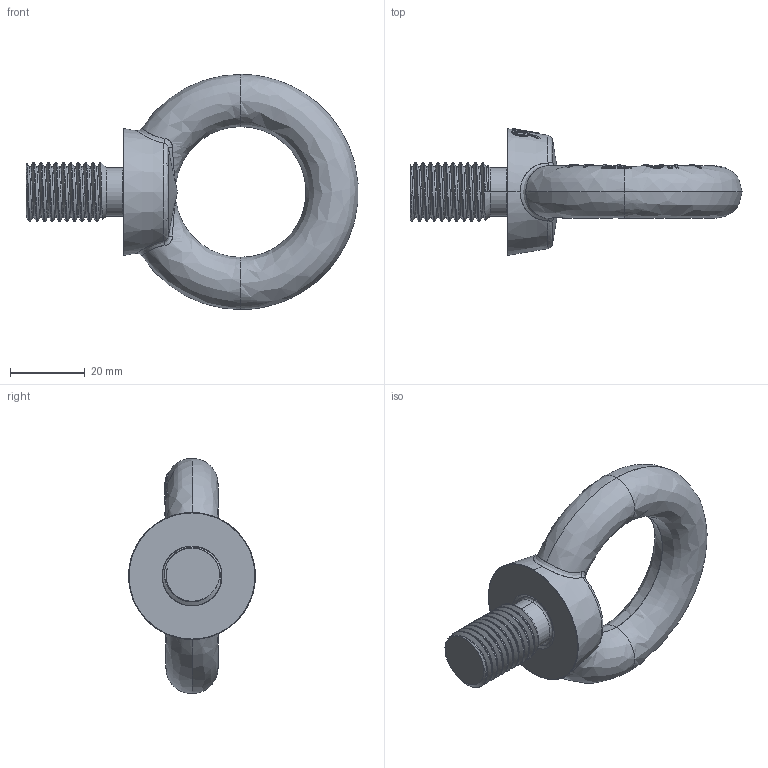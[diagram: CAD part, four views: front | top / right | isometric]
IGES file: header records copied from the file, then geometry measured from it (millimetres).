
Start section: SolidWorks IGES file using analytic representation for surfaces
Global section: file name: C:\Users\Brenton\Documents\Townley\IS Eye Bolt\M16\GPEBM16.IGS; native system: SolidWorks 2012; preprocessor: SolidWorks 2012; author: Brenton; date: 141219.131704; units: millimetre
Bounding box: 88.92 x 33.96 x 63 mm (x, y, z)
Surface area: 10057.8 mm2 (no closed solid volume)
Topology: 0 solids, 0 shells, 320 faces, 4927 edges, 4908 vertices
Faces by surface type: bspline 283, revolution 37
